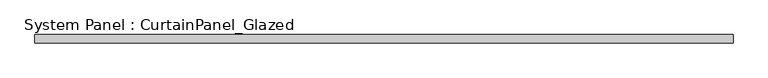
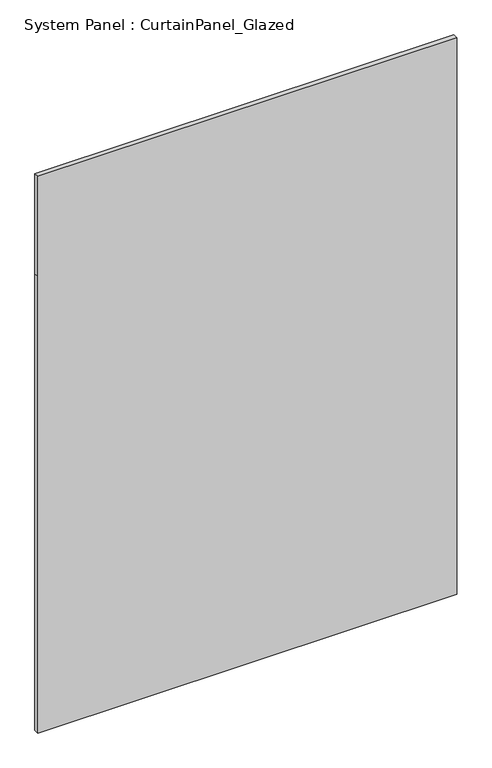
"""IFC4 building model written with IfcOpenShell, lengths in millimetres: plate geometry, System Panel : CurtainPanel_Glazed."""

from ifc_helpers import new_model, si_unit, frame, origin, place, context, project, spatial, polyline, outline, extrude, source, transform, mapped, element, save


def system_panel_curtainpanel_glazed_a0842033(model_context):
    return source(origin(), model_context, "Body", "SweptSolid", [
        extrude(outline(polyline([(0.0, -1041.0000001), (0.0, 1041.0000001), (2400.0, 1041.0000001), (2925.0, 1041.0000001), (2925.0, -1041.0000001), (2400.0, -1041.0000001), (0.0, -1041.0000001)])), frame((0.0, -12.5, 0.0), z_axis=(0.0, 1.0, 0.0), x_axis=(0.0, 0.0, 1.0)), (0.0, 0.0, 1.0), 25.0),
    ])


if __name__ == "__main__":
    model = new_model("IFC4")
    model_context = context("Model", 3, world=origin())
    ifc_project = project(units=[si_unit("LENGTHUNIT", "METRE", prefix="MILLI")], contexts=[model_context])
    site = spatial("IfcSite", under=ifc_project)
    building = spatial("IfcBuilding", under=site)
    placement = place(None, origin())
    system_panel_curtainpanel_glazed_shape = system_panel_curtainpanel_glazed_a0842033(model_context)
    element("IfcPlate", 1, ObjectType="System Panel : CurtainPanel_Glazed", at=placement, inside=building, context=model_context, shape_type="MappedRepresentation", body=[
        mapped(system_panel_curtainpanel_glazed_shape, transform((0.0, 0.0, 0.0), x_axis=(1.0, 0.0, 0.0), y_axis=(0.0, 1.0, 0.0), z_axis=(0.0, 0.0, 1.0))),
    ])
    save(model, "model.ifc")
